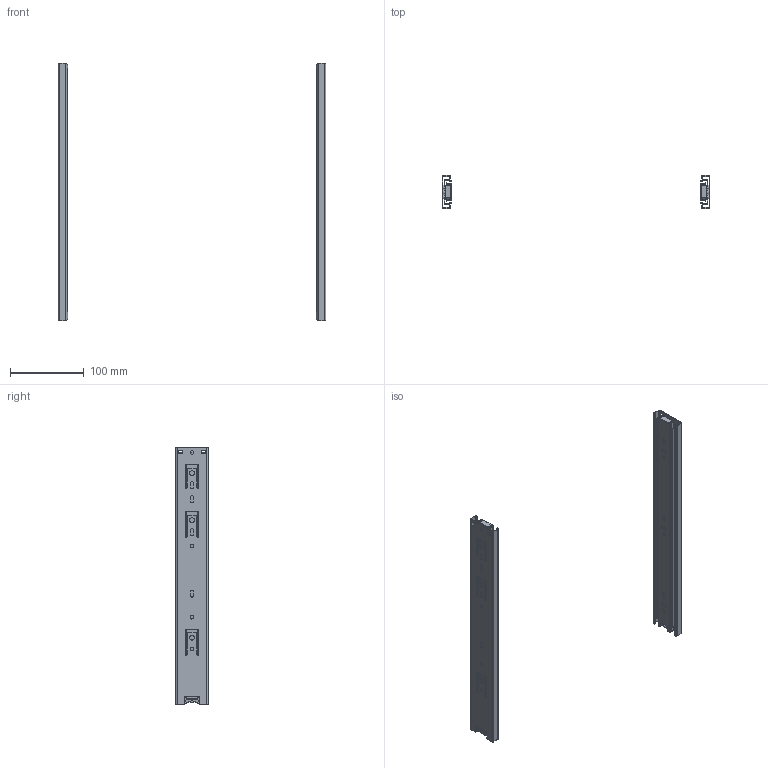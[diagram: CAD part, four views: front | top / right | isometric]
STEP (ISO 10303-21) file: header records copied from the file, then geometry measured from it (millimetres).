
FILE_DESCRIPTION(/* description */ (''),/* implementation_level */ '2;1');
FILE_NAME(/* name */ 'D:\$Workingspace\Designs\Katalog\Cadsoft\GTV Prowadnice\Prowadnice GTV_bryły 3D\PK-0-H45-350.stp',/* time_stamp */ '2016-11-22T11:25:29+01:00',/* author */ ('tomaszw'),/* organization */ (''),/* preprocessor_version */ 'ST-DEVELOPER v16.1',/* originating_system */ 'Autodesk Inventor 2016',/* authorisation */ '');
FILE_SCHEMA (('AUTOMOTIVE_DESIGN { 1 0 10303 214 3 1 1 }'));
Length unit declared in the file: millimetre
Products named in the file (5): Blokada_4; PK-0-H45_1-350; PK-0-H45_2-350; PK-0-H45_3-350; PK-0-H45
Assembly tree (8 placements, depth 2):
  PK-0-H45
    Blokada_4  x2
    PK-0-H45_1-350  x2
    PK-0-H45_2-350  x2
    PK-0-H45_3-350  x2
Bounding box: 364 x 44.5 x 350 mm (x, y, z)
Volume: 111149.4 mm3; surface area: 217416.4 mm2
Topology: 8 solids, 8 shells, 460 faces, 1324 edges, 880 vertices
Faces by surface type: cylinder 236, plane 220, cone 4
Full cylindrical faces by diameter (mm): 4.5 x10, 5 x4, 6.4 x6
Entity records: 8034 total; most frequent: DIRECTION 1364, CARTESIAN_POINT 1361, ORIENTED_EDGE 1304, EDGE_CURVE 652, AXIS2_PLACEMENT_3D 477, VERTEX_POINT 440, LINE 410, VECTOR 410
